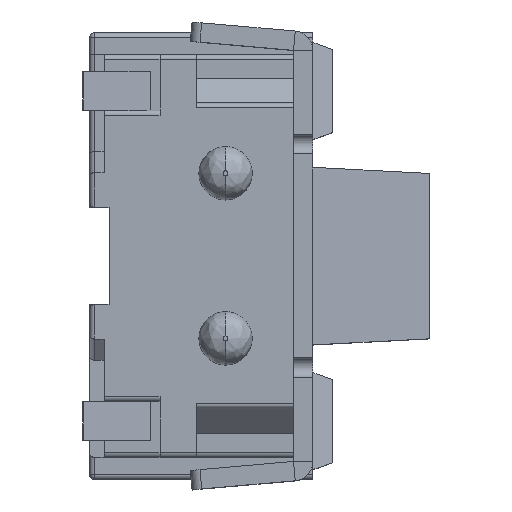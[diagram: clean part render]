
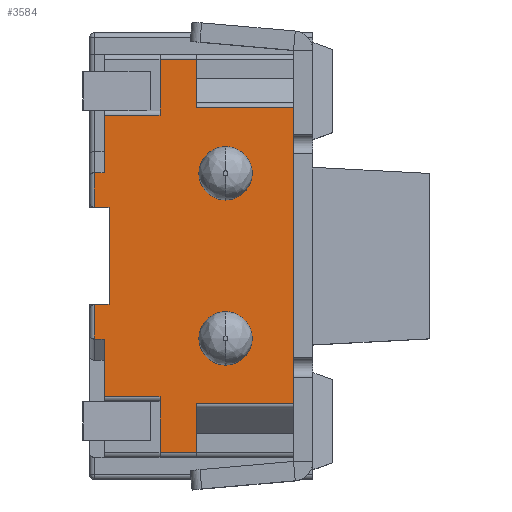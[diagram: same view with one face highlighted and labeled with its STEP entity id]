
A CAD part, top view. The second image highlights one B-rep face of the part: STEP entity #3584.
In plain terms, the highlighted planar face has unit normal (0, 0, 1).
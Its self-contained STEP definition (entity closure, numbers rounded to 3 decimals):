
#286=CARTESIAN_POINT('',(1.4,0.85,1.35));
#287=DIRECTION('',(0.,0.,1.));
#288=DIRECTION('',(0.,-1.,0.));
#289=AXIS2_PLACEMENT_3D('',#286,#287,#288);
#294=CARTESIAN_POINT('',(1.4,0.85,1.35));
#295=DIRECTION('',(0.,0.,1.));
#296=DIRECTION('',(0.,1.,0.));
#297=AXIS2_PLACEMENT_3D('',#294,#295,#296);
#302=CARTESIAN_POINT('',(1.4,-0.85,1.35));
#303=DIRECTION('',(0.,0.,1.));
#304=DIRECTION('',(0.,-1.,0.));
#305=AXIS2_PLACEMENT_3D('',#302,#303,#304);
#310=CARTESIAN_POINT('',(1.4,-0.85,1.35));
#311=DIRECTION('',(0.,0.,1.));
#312=DIRECTION('',(0.,1.,0.));
#313=AXIS2_PLACEMENT_3D('',#310,#311,#312);
#318=DIRECTION('',(0.,1.,0.));
#319=VECTOR('',#318,0.357);
#320=CARTESIAN_POINT('',(0.05,0.5,1.35));
#321=LINE('',#320,#319);
#325=DIRECTION('',(1.,0.,0.));
#326=VECTOR('',#325,0.1);
#327=CARTESIAN_POINT('',(0.05,0.857,1.35));
#328=LINE('',#327,#326);
#332=DIRECTION('',(0.,-1.,0.));
#333=VECTOR('',#332,0.593);
#334=CARTESIAN_POINT('',(0.15,1.45,1.35));
#335=LINE('',#334,#333);
#339=DIRECTION('',(-1.,0.,0.));
#340=VECTOR('',#339,0.575);
#341=CARTESIAN_POINT('',(0.725,1.45,1.35));
#342=LINE('',#341,#340);
#346=DIRECTION('',(-1.,0.,0.));
#347=VECTOR('',#346,0.375);
#348=CARTESIAN_POINT('',(1.1,2.025,1.35));
#349=LINE('',#348,#347);
#353=DIRECTION('',(-1.,0.,0.));
#354=VECTOR('',#353,1.);
#355=CARTESIAN_POINT('',(2.1,1.525,1.35));
#356=LINE('',#355,#354);
#360=DIRECTION('',(1.,0.,0.));
#361=VECTOR('',#360,1.);
#362=CARTESIAN_POINT('',(1.1,-1.525,1.35));
#363=LINE('',#362,#361);
#367=DIRECTION('',(1.,0.,0.));
#368=VECTOR('',#367,0.375);
#369=CARTESIAN_POINT('',(0.725,-2.025,1.35));
#370=LINE('',#369,#368);
#374=DIRECTION('',(1.,0.,0.));
#375=VECTOR('',#374,0.575);
#376=CARTESIAN_POINT('',(0.15,-1.45,1.35));
#377=LINE('',#376,#375);
#381=DIRECTION('',(0.,-1.,0.));
#382=VECTOR('',#381,0.593);
#383=CARTESIAN_POINT('',(0.15,-0.857,1.35));
#384=LINE('',#383,#382);
#388=DIRECTION('',(1.,0.,0.));
#389=VECTOR('',#388,0.1);
#390=CARTESIAN_POINT('',(0.05,-0.857,1.35));
#391=LINE('',#390,#389);
#395=DIRECTION('',(0.,1.,0.));
#396=VECTOR('',#395,0.357);
#397=CARTESIAN_POINT('',(0.05,-0.857,1.35));
#398=LINE('',#397,#396);
#402=DIRECTION('',(1.,0.,0.));
#403=VECTOR('',#402,0.15);
#404=CARTESIAN_POINT('',(0.05,-0.5,1.35));
#405=LINE('',#404,#403);
#409=DIRECTION('',(0.,-1.,0.));
#410=VECTOR('',#409,1.);
#411=CARTESIAN_POINT('',(0.2,0.5,1.35));
#412=LINE('',#411,#410);
#416=DIRECTION('',(1.,0.,0.));
#417=VECTOR('',#416,0.15);
#418=CARTESIAN_POINT('',(0.05,0.5,1.35));
#419=LINE('',#418,#417);
#900=DIRECTION('',(0.,-1.,0.));
#901=VECTOR('',#900,0.575);
#902=CARTESIAN_POINT('',(0.725,-1.45,1.35));
#903=LINE('',#902,#901);
#922=DIRECTION('',(0.,1.,0.));
#923=VECTOR('',#922,0.5);
#924=CARTESIAN_POINT('',(1.1,-2.025,1.35));
#925=LINE('',#924,#923);
#1046=DIRECTION('',(0.,-1.,0.));
#1047=VECTOR('',#1046,3.05);
#1048=CARTESIAN_POINT('',(2.1,1.525,1.35));
#1049=LINE('',#1048,#1047);
#2260=DIRECTION('',(0.,1.,0.));
#2261=VECTOR('',#2260,0.5);
#2262=CARTESIAN_POINT('',(1.1,1.525,1.35));
#2263=LINE('',#2262,#2261);
#2325=DIRECTION('',(0.,-1.,0.));
#2326=VECTOR('',#2325,0.575);
#2327=CARTESIAN_POINT('',(0.725,2.025,1.35));
#2328=LINE('',#2327,#2326);
#2862=CARTESIAN_POINT('',(1.4,0.575,1.35));
#2863=CARTESIAN_POINT('',(1.4,1.125,1.35));
#2864=VERTEX_POINT('',#2862);
#2865=VERTEX_POINT('',#2863);
#2866=CARTESIAN_POINT('',(1.4,-1.125,1.35));
#2867=CARTESIAN_POINT('',(1.4,-0.575,1.35));
#2868=VERTEX_POINT('',#2866);
#2869=VERTEX_POINT('',#2867);
#2890=CARTESIAN_POINT('',(0.2,0.5,1.35));
#2891=CARTESIAN_POINT('',(0.2,-0.5,1.35));
#2892=VERTEX_POINT('',#2890);
#2893=VERTEX_POINT('',#2891);
#3026=CARTESIAN_POINT('',(0.15,0.857,1.35));
#3027=VERTEX_POINT('',#3026);
#3028=CARTESIAN_POINT('',(0.15,-0.857,1.35));
#3030=VERTEX_POINT('',#3028);
#3042=CARTESIAN_POINT('',(1.1,-2.025,1.35));
#3044=VERTEX_POINT('',#3042);
#3048=CARTESIAN_POINT('',(0.725,-2.025,1.35));
#3049=VERTEX_POINT('',#3048);
#3058=CARTESIAN_POINT('',(2.1,-1.525,1.35));
#3060=VERTEX_POINT('',#3058);
#3064=CARTESIAN_POINT('',(1.1,-1.525,1.35));
#3065=VERTEX_POINT('',#3064);
#3078=CARTESIAN_POINT('',(2.1,1.525,1.35));
#3079=VERTEX_POINT('',#3078);
#3080=CARTESIAN_POINT('',(1.1,1.525,1.35));
#3081=VERTEX_POINT('',#3080);
#3082=CARTESIAN_POINT('',(0.725,2.025,1.35));
#3084=VERTEX_POINT('',#3082);
#3088=CARTESIAN_POINT('',(1.1,2.025,1.35));
#3089=VERTEX_POINT('',#3088);
#3098=CARTESIAN_POINT('',(0.725,1.45,1.35));
#3099=CARTESIAN_POINT('',(0.15,1.45,1.35));
#3100=VERTEX_POINT('',#3098);
#3101=VERTEX_POINT('',#3099);
#3110=CARTESIAN_POINT('',(0.15,-1.45,1.35));
#3111=CARTESIAN_POINT('',(0.725,-1.45,1.35));
#3112=VERTEX_POINT('',#3110);
#3113=VERTEX_POINT('',#3111);
#3144=CARTESIAN_POINT('',(0.05,0.5,1.35));
#3145=VERTEX_POINT('',#3144);
#3146=CARTESIAN_POINT('',(0.05,0.857,1.35));
#3147=VERTEX_POINT('',#3146);
#3163=CARTESIAN_POINT('',(0.05,-0.857,1.35));
#3165=VERTEX_POINT('',#3163);
#3166=CARTESIAN_POINT('',(0.05,-0.5,1.35));
#3167=VERTEX_POINT('',#3166);
#3527=CARTESIAN_POINT('',(0.,2.3,1.35));
#3528=DIRECTION('',(0.,0.,1.));
#3529=DIRECTION('',(0.,-1.,0.));
#3530=AXIS2_PLACEMENT_3D('',#3527,#3528,#3529);
#3531=PLANE('',#3530);
#3532=ORIENTED_EDGE('',*,*,#3518,.T.);
#3534=ORIENTED_EDGE('',*,*,#3533,.T.);
#3536=ORIENTED_EDGE('',*,*,#3535,.F.);
#3538=ORIENTED_EDGE('',*,*,#3537,.F.);
#3540=ORIENTED_EDGE('',*,*,#3539,.F.);
#3542=ORIENTED_EDGE('',*,*,#3541,.F.);
#3544=ORIENTED_EDGE('',*,*,#3543,.F.);
#3546=ORIENTED_EDGE('',*,*,#3545,.F.);
#3548=ORIENTED_EDGE('',*,*,#3547,.T.);
#3550=ORIENTED_EDGE('',*,*,#3549,.F.);
#3552=ORIENTED_EDGE('',*,*,#3551,.F.);
#3554=ORIENTED_EDGE('',*,*,#3553,.F.);
#3556=ORIENTED_EDGE('',*,*,#3555,.F.);
#3558=ORIENTED_EDGE('',*,*,#3557,.F.);
#3560=ORIENTED_EDGE('',*,*,#3559,.F.);
#3562=ORIENTED_EDGE('',*,*,#3561,.F.);
#3564=ORIENTED_EDGE('',*,*,#3563,.T.);
#3566=ORIENTED_EDGE('',*,*,#3565,.T.);
#3568=ORIENTED_EDGE('',*,*,#3567,.F.);
#3569=ORIENTED_EDGE('',*,*,#3484,.F.);
#3570=EDGE_LOOP('',(#3532,#3534,#3536,#3538,#3540,#3542,#3544,#3546,#3548,#3550,
#3552,#3554,#3556,#3558,#3560,#3562,#3564,#3566,#3568,#3569));
#3571=FACE_OUTER_BOUND('',#3570,.F.);
#3573=ORIENTED_EDGE('',*,*,#3572,.T.);
#3575=ORIENTED_EDGE('',*,*,#3574,.T.);
#3576=EDGE_LOOP('',(#3573,#3575));
#3577=FACE_BOUND('',#3576,.F.);
#3579=ORIENTED_EDGE('',*,*,#3578,.T.);
#3581=ORIENTED_EDGE('',*,*,#3580,.T.);
#3582=EDGE_LOOP('',(#3579,#3581));
#3583=FACE_BOUND('',#3582,.F.);
#290=CIRCLE('',#289,0.275);
#298=CIRCLE('',#297,0.275);
#306=CIRCLE('',#305,0.275);
#314=CIRCLE('',#313,0.275);
#3484=EDGE_CURVE('',#3145,#2892,#419,.T.);
#3518=EDGE_CURVE('',#3145,#3147,#321,.T.);
#3533=EDGE_CURVE('',#3147,#3027,#328,.T.);
#3535=EDGE_CURVE('',#3101,#3027,#335,.T.);
#3537=EDGE_CURVE('',#3100,#3101,#342,.T.);
#3539=EDGE_CURVE('',#3084,#3100,#2328,.T.);
#3541=EDGE_CURVE('',#3089,#3084,#349,.T.);
#3543=EDGE_CURVE('',#3081,#3089,#2263,.T.);
#3545=EDGE_CURVE('',#3079,#3081,#356,.T.);
#3547=EDGE_CURVE('',#3079,#3060,#1049,.T.);
#3549=EDGE_CURVE('',#3065,#3060,#363,.T.);
#3551=EDGE_CURVE('',#3044,#3065,#925,.T.);
#3553=EDGE_CURVE('',#3049,#3044,#370,.T.);
#3555=EDGE_CURVE('',#3113,#3049,#903,.T.);
#3557=EDGE_CURVE('',#3112,#3113,#377,.T.);
#3559=EDGE_CURVE('',#3030,#3112,#384,.T.);
#3561=EDGE_CURVE('',#3165,#3030,#391,.T.);
#3563=EDGE_CURVE('',#3165,#3167,#398,.T.);
#3565=EDGE_CURVE('',#3167,#2893,#405,.T.);
#3567=EDGE_CURVE('',#2892,#2893,#412,.T.);
#3572=EDGE_CURVE('',#2868,#2869,#306,.T.);
#3574=EDGE_CURVE('',#2869,#2868,#314,.T.);
#3578=EDGE_CURVE('',#2864,#2865,#290,.T.);
#3580=EDGE_CURVE('',#2865,#2864,#298,.T.);
#3584=ADVANCED_FACE('',(#3571,#3577,#3583),#3531,.T.);
